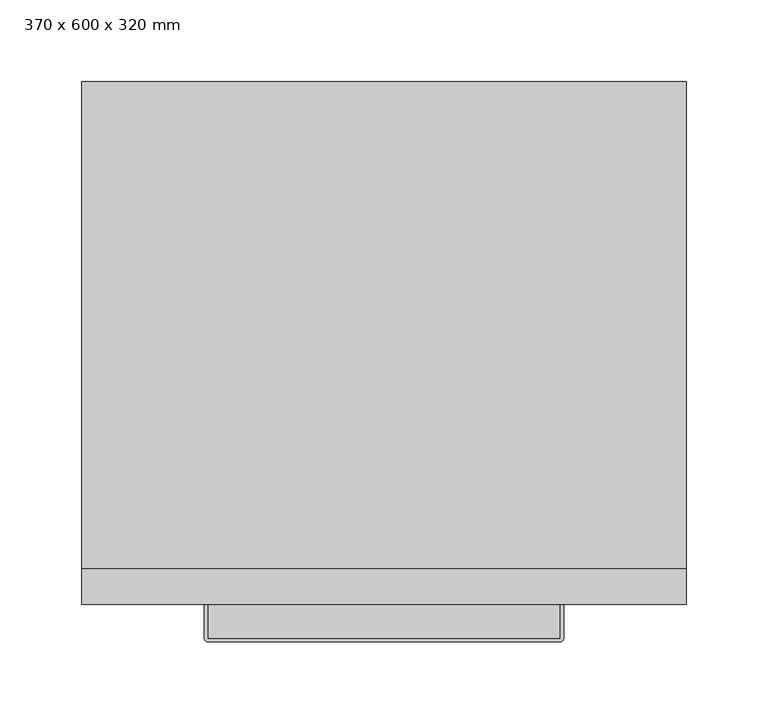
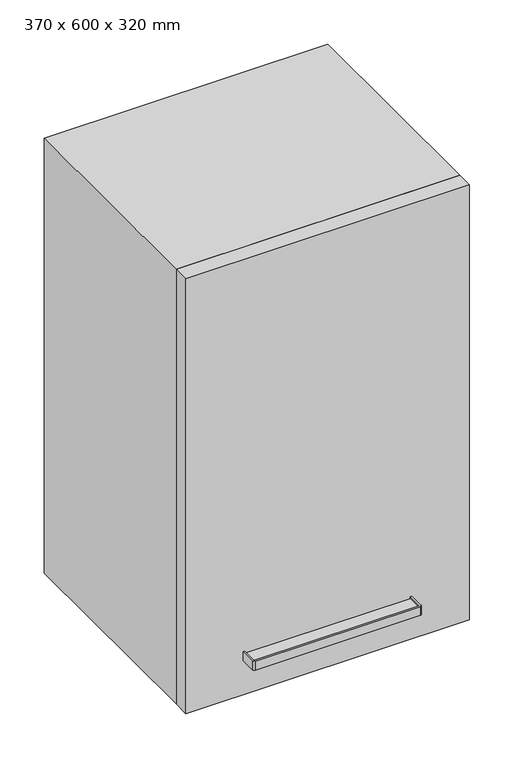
"""IFC4 building model written with IfcOpenShell, lengths in millimetres: furniture geometry, Armario superior - Puerta simple : 370 x 600 x 320 mm."""

from ifc_helpers import new_model, si_unit, point, frame, frame_2d, origin, place, context, project, spatial, polyline, circle_curve, trimmed, segment, composite_curve, outline, extrude, faceted_brep, source, transform, mapped, element, save


def furniture_370_x_600_x_320_mm_8a8752ee(model_context):
    return source(origin(), model_context, "Body", "SolidModel", [
        extrude(outline(composite_curve([segment(polyline([(67.0, -410.0), (283.0, -410.0), (283.0, -430.5)]), True, "CONTINUOUS"), segment(trimmed(circle_curve(frame_2d((282.5, -430.5)), 0.5), [point((283.0, -430.5))], [point((282.5, -431.0))], False, "CARTESIAN"), True, "CONTINUOUS"), segment(polyline([(282.5, -431.0), (67.5, -431.0)]), True, "CONTINUOUS"), segment(trimmed(circle_curve(frame_2d((67.5, -430.5)), 0.5), [point((67.5, -431.0))], [point((67.0, -430.5))], False, "CARTESIAN"), True, "CONTINUOUS"), segment(polyline([(67.0, -430.5), (67.0, -410.0)]), True, "CONTINUOUS")], self_intersect=False)), frame((0.0, 0.0, 1449.765389), z_axis=(0.0, 0.0, 1.0), x_axis=(1.0, 0.0, 0.0)), (0.0, 0.0, 1.0), 6.4890959),
        extrude(outline(composite_curve([segment(polyline([(65.0, -410.0), (67.0, -410.0), (67.0, -430.5)]), True, "CONTINUOUS"), segment(trimmed(circle_curve(frame_2d((67.5, -430.5)), 0.5), [point((67.0, -430.5))], [point((67.5, -431.0))], True, "CARTESIAN"), True, "CONTINUOUS"), segment(polyline([(67.5, -431.0), (282.5, -431.0)]), True, "CONTINUOUS"), segment(trimmed(circle_curve(frame_2d((282.5, -430.5)), 0.5), [point((282.5, -431.0))], [point((283.0, -430.5))], True, "CARTESIAN"), True, "CONTINUOUS"), segment(polyline([(283.0, -430.5), (283.0, -410.0), (285.0, -410.0), (285.0, -430.5)]), True, "CONTINUOUS"), segment(trimmed(circle_curve(frame_2d((282.5, -430.5)), 2.5), [point((285.0, -430.5))], [point((282.5, -433.0))], False, "CARTESIAN"), True, "CONTINUOUS"), segment(polyline([(282.5, -433.0), (67.5, -433.0)]), True, "CONTINUOUS"), segment(trimmed(circle_curve(frame_2d((67.5, -430.5)), 2.5), [point((67.5, -433.0))], [point((65.0, -430.5))], False, "CARTESIAN"), True, "CONTINUOUS"), segment(polyline([(65.0, -430.5), (65.0, -410.0)]), True, "CONTINUOUS")], self_intersect=False)), frame((0.0, 0.0, 1447.0), z_axis=(0.0, 0.0, 1.0), x_axis=(1.0, 0.0, 0.0)), (0.0, 0.0, 1.0), 12.0),
        faceted_brep([(338.0, -388.0, 1422.0), (338.0, -112.0, 1422.0), (12.0, -112.0, 1422.0), (12.0, -388.0, 1422.0), (360.0, -388.0, 1400.0), (-10.0, -388.0, 1400.0), (-10.0, -90.0, 1400.0), (360.0, -90.0, 1400.0), (-10.0, -388.0, 2000.0), (360.0, -388.0, 2000.0), (12.0, -388.0, 1978.0), (338.0, -388.0, 1978.0), (-10.0, -90.0, 2000.0), (360.0, -90.0, 2000.0), (338.0, -112.0, 1978.0), (12.0, -112.0, 1978.0)], [[[0, 1, 2, 3]], [[4, 5, 6, 7]], [[8, 5, 4, 9], [0, 3, 10, 11]], [[8, 12, 6, 5]], [[12, 13, 7, 6]], [[13, 9, 4, 7]], [[11, 14, 1, 0]], [[14, 15, 2, 1]], [[3, 2, 15, 10]], [[9, 13, 12, 8]], [[10, 15, 14, 11]]]),
        extrude(outline(polyline([(-10.0, -410.0), (-10.0, -388.0), (360.0, -388.0), (360.0, -410.0), (-10.0, -410.0)])), frame((0.0, 0.0, 1400.0), z_axis=(0.0, 0.0, 1.0), x_axis=(1.0, 0.0, 0.0)), (0.0, 0.0, 1.0), 600.0),
    ])


if __name__ == "__main__":
    model = new_model("IFC4")
    model_context = context("Model", 3, world=origin())
    ifc_project = project(units=[si_unit("LENGTHUNIT", "METRE", prefix="MILLI")], contexts=[model_context])
    site = spatial("IfcSite", under=ifc_project)
    building = spatial("IfcBuilding", under=site)
    placement = place(None, origin())
    furniture_370_x_600_x_320_mm_shape = furniture_370_x_600_x_320_mm_8a8752ee(model_context)
    element("IfcFurniture", 1, ObjectType="Armario superior - Puerta simple : 370 x 600 x 320 mm", at=placement, inside=building, context=model_context, shape_type="MappedRepresentation", body=[
        mapped(furniture_370_x_600_x_320_mm_shape, transform((0.0, 0.0, 0.0), x_axis=(1.0, 0.0, 0.0), y_axis=(0.0, 1.0, 0.0), z_axis=(0.0, 0.0, 1.0))),
    ])
    save(model, "model.ifc")
